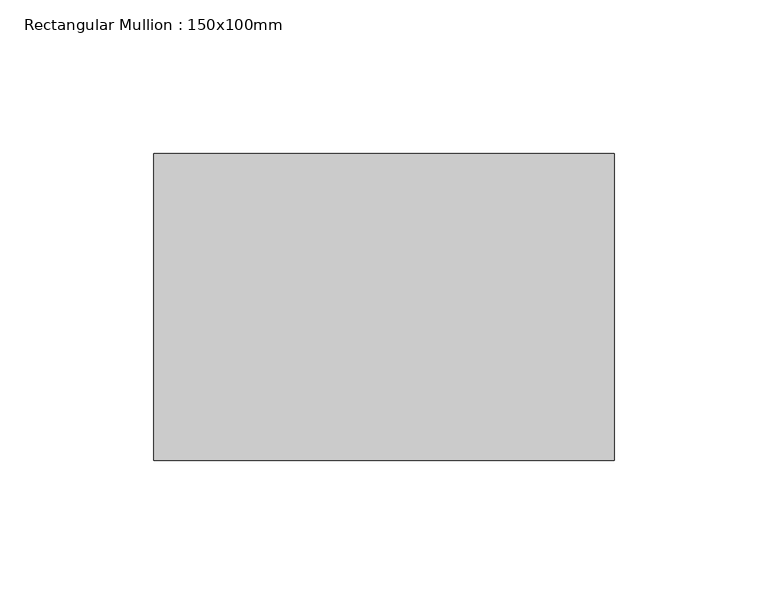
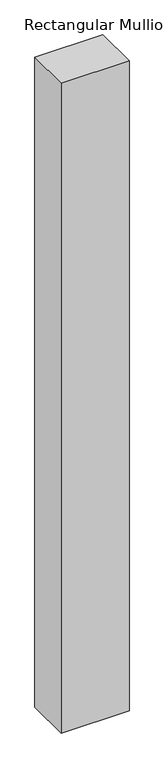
"""IFC4 building model written with IfcOpenShell, lengths in millimetres: member geometry, Rectangular Mullion : 150x100mm."""

from ifc_helpers import new_model, si_unit, frame, origin, place, context, project, spatial, polyline, outline, extrude, source, transform, mapped, element, save


def rectangular_mullion_150x100mm_2f7dce7e(model_context):
    return source(origin(), model_context, "Body", "SweptSolid", [
        extrude(outline(polyline([(0.0, 50.0), (0.0, -50.0), (-150.0, -50.0), (-150.0, 50.0), (0.0, 50.0)])), frame((0.0, 0.0, -1515.0), z_axis=(0.0, 0.0, 1.0), x_axis=(1.0, 0.0, 0.0)), (0.0, 0.0, 1.0), 1515.0),
    ])


if __name__ == "__main__":
    model = new_model("IFC4")
    model_context = context("Model", 3, world=origin())
    ifc_project = project(units=[si_unit("LENGTHUNIT", "METRE", prefix="MILLI")], contexts=[model_context])
    site = spatial("IfcSite", under=ifc_project)
    building = spatial("IfcBuilding", under=site)
    placement = place(None, origin())
    rectangular_mullion_150x100mm_shape = rectangular_mullion_150x100mm_2f7dce7e(model_context)
    element("IfcMember", 1, ObjectType="Rectangular Mullion : 150x100mm", at=placement, inside=building, context=model_context, shape_type="MappedRepresentation", body=[
        mapped(rectangular_mullion_150x100mm_shape, transform((0.0, 0.0, 0.0), x_axis=(1.0, 0.0, 0.0), y_axis=(0.0, 1.0, 0.0), z_axis=(0.0, 0.0, 1.0))),
    ])
    save(model, "model.ifc")
